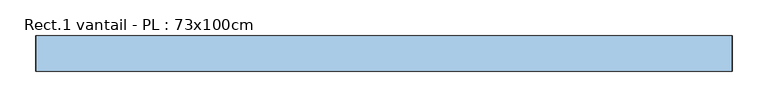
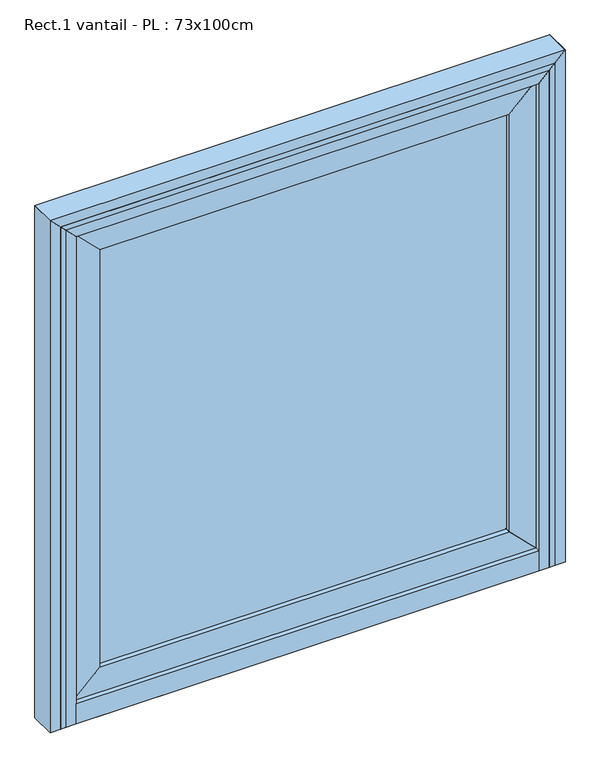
"""IFC4 building model written with IfcOpenShell, lengths in millimetres: window geometry, Rect.1 vantail - PL : 73x100cm."""

from ifc_helpers import new_model, si_unit, frame, origin, origin_with_axes, place, context, project, spatial, polyline, outline, extrude, source, transform, mapped, element, save


def rect_1_vantail_pl_73x100cm_a283943e(model_context):
    return source(origin(), model_context, "Body", "SweptSolid", [
        extrude(outline(polyline([(390.0, -10.0), (390.0, -30.0), (-390.0, -30.0), (-390.0, -10.0), (390.0, -10.0)])), frame((0.0, 0.0, 90.0), z_axis=(0.0, 0.0, 1.0), x_axis=(1.0, 0.0, 0.0)), (0.0, 0.0, 1.0), 840.0),
        extrude(outline(polyline([(40.0, 440.0), (90.0, 390.0), (90.0, -390.0), (40.0, -440.0), (40.0, 440.0)])), frame((0.0, -40.0, 0.0), z_axis=(0.0, 1.0, 0.0), x_axis=(0.0, 0.0, 1.0)), (0.0, 0.0, 1.0), 40.0),
        extrude(outline(polyline([(40.0, -440.0), (90.0, -390.0), (930.0, -390.0), (980.0, -440.0), (40.0, -440.0)])), frame((0.0, -40.0, 0.0), z_axis=(0.0, 1.0, 0.0), x_axis=(0.0, 0.0, 1.0)), (0.0, 0.0, 1.0), 40.0),
        extrude(outline(polyline([(90.0, 390.0), (40.0, 440.0), (980.0, 440.0), (930.0, 390.0), (90.0, 390.0)])), frame((0.0, -40.0, 0.0), z_axis=(0.0, 1.0, 0.0), x_axis=(0.0, 0.0, 1.0)), (0.0, 0.0, 1.0), 40.0),
        extrude(outline(polyline([(980.0, 440.0), (980.0, -440.0), (930.0, -390.0), (930.0, 390.0), (980.0, 440.0)])), frame((0.0, -40.0, 0.0), z_axis=(0.0, 1.0, 0.0), x_axis=(0.0, 0.0, 1.0)), (0.0, 0.0, 1.0), 40.0),
        extrude(outline(polyline([(1010.0, 470.0), (1000.0, 460.0), (0.0, 460.0), (0.0, 470.0), (1010.0, 470.0)])), frame((0.0, -50.0, 0.0), z_axis=(0.0, 1.0, 0.0), x_axis=(0.0, 0.0, 1.0)), (0.0, 0.0, 1.0), 50.0),
        extrude(outline(polyline([(1010.0, -470.0), (0.0, -470.0), (0.0, -460.0), (1000.0, -460.0), (1010.0, -470.0)])), frame((0.0, -50.0, 0.0), z_axis=(0.0, 1.0, 0.0), x_axis=(0.0, 0.0, 1.0)), (0.0, 0.0, 1.0), 50.0),
        extrude(outline(polyline([(440.0, -50.0), (-440.0, -50.0), (-440.0, 0.0), (440.0, 0.0), (440.0, -50.0)])), origin_with_axes(), (0.0, 0.0, 1.0), 40.0),
        extrude(outline(polyline([(0.0, -490.0), (0.0, -440.0), (980.0, -440.0), (1030.0, -490.0), (0.0, -490.0)])), frame((0.0, -50.0, 0.0), z_axis=(0.0, 1.0, 0.0), x_axis=(0.0, 0.0, 1.0)), (0.0, 0.0, 1.0), 50.0),
        extrude(outline(polyline([(0.0, 490.0), (1030.0, 490.0), (980.0, 440.0), (0.0, 440.0), (0.0, 490.0)])), frame((0.0, -50.0, 0.0), z_axis=(0.0, 1.0, 0.0), x_axis=(0.0, 0.0, 1.0)), (0.0, 0.0, 1.0), 50.0),
        extrude(outline(polyline([(-10.0, 30.0), (-10.0, 0.0), (-50.0, 0.0), (-50.0, 40.0), (-10.0, 30.0)])), frame((-460.0, 0.0, 0.0), z_axis=(1.0, 0.0, 0.0), x_axis=(0.0, 1.0, 0.0)), (0.0, 0.0, 1.0), 920.0),
        extrude(outline(polyline([(1010.0, -470.0), (1000.0, -460.0), (1000.0, 460.0), (1010.0, 470.0), (1010.0, -470.0)])), frame((0.0, -50.0, 0.0), z_axis=(0.0, 1.0, 0.0), x_axis=(0.0, 0.0, 1.0)), (0.0, 0.0, 1.0), 50.0),
        extrude(outline(polyline([(1030.0, 490.0), (1030.0, -490.0), (980.0, -440.0), (980.0, 440.0), (1030.0, 490.0)])), frame((0.0, -50.0, 0.0), z_axis=(0.0, 1.0, 0.0), x_axis=(0.0, 0.0, 1.0)), (0.0, 0.0, 1.0), 50.0),
    ])


if __name__ == "__main__":
    model = new_model("IFC4")
    model_context = context("Model", 3, world=origin())
    ifc_project = project(units=[si_unit("LENGTHUNIT", "METRE", prefix="MILLI")], contexts=[model_context])
    site = spatial("IfcSite", under=ifc_project)
    building = spatial("IfcBuilding", under=site)
    placement = place(None, origin())
    rect_1_vantail_pl_73x100cm_shape = rect_1_vantail_pl_73x100cm_a283943e(model_context)
    element("IfcWindow", 1, ObjectType="Rect.1 vantail - PL : 73x100cm", at=placement, inside=building, context=model_context, shape_type="MappedRepresentation", body=[
        mapped(rect_1_vantail_pl_73x100cm_shape, transform((0.0, 0.0, 0.0), x_axis=(1.0, 0.0, 0.0), y_axis=(0.0, 1.0, 0.0), z_axis=(0.0, 0.0, 1.0))),
    ])
    save(model, "model.ifc")
